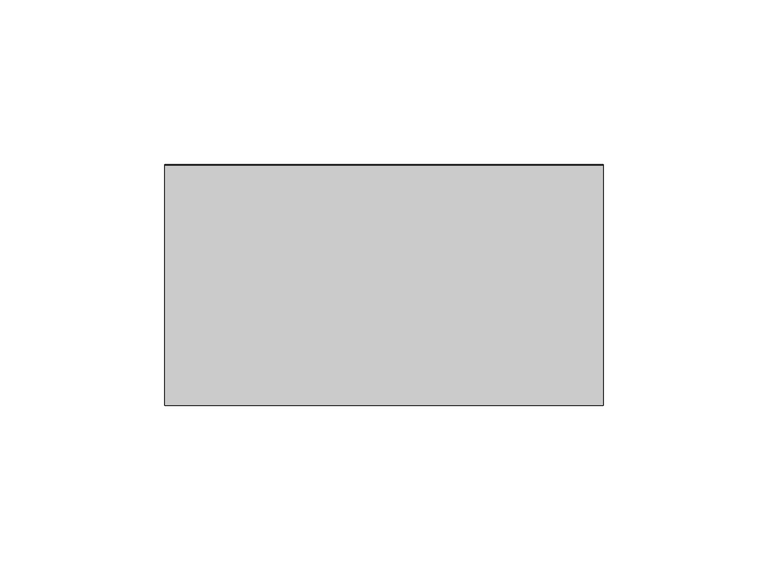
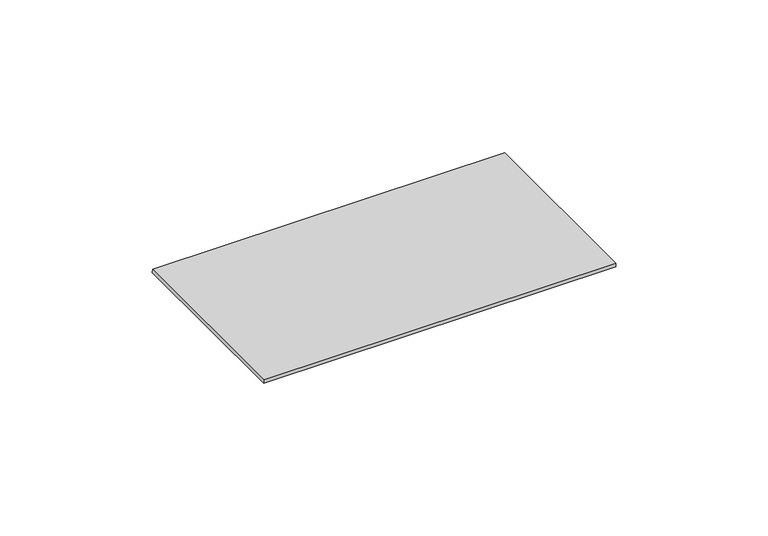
"""IFC4 building model written with IfcOpenShell, lengths in millimetres: furniture geometry, Steelcase - Media Scape - CODEC Case : No Codec Case."""

from ifc_helpers import new_model, si_unit, point, frame, frame_2d, origin, place, context, project, spatial, polyline, circle_curve, trimmed, segment, composite_curve, outline, extrude, source, transform, mapped, element, save


def furniture_814a4d4c(model_context):
    return source(origin(), model_context, "Body", "SweptSolid", [
        extrude(outline(composite_curve([segment(trimmed(circle_curve(frame_2d((203.2001796, 649.0981023)), 16.9406977), [point((219.6015054, 653.3388273))], [point((219.9157427, 651.8507713))], False, "CARTESIAN"), True, "CONTINUOUS"), segment(polyline([(219.9157427, 651.8507713), (146.6586771, 651.8507713), (146.6586771, 653.3388273), (219.6015054, 653.3388273)]), True, "CONTINUOUS")], self_intersect=False)), frame((-66.6877, 0.0, 0.0), z_axis=(1.0, 0.0, 0.0), x_axis=(0.0, 1.0, 0.0)), (0.0, 0.0, 1.0), 133.3754),
    ])


if __name__ == "__main__":
    model = new_model("IFC4")
    model_context = context("Model", 3, world=origin())
    ifc_project = project(units=[si_unit("LENGTHUNIT", "METRE", prefix="MILLI")], contexts=[model_context])
    site = spatial("IfcSite", under=ifc_project)
    building = spatial("IfcBuilding", under=site)
    placement = place(None, origin())
    furniture_shape = furniture_814a4d4c(model_context)
    element("IfcFurniture", 1, ObjectType="Steelcase - Media Scape - CODEC Case : No Codec Case", at=placement, inside=building, context=model_context, shape_type="MappedRepresentation", body=[
        mapped(furniture_shape, transform((0.0, 0.0, 0.0), x_axis=(1.0, 0.0, 0.0), y_axis=(0.0, 1.0, 0.0), z_axis=(0.0, 0.0, 1.0))),
    ])
    save(model, "model.ifc")
